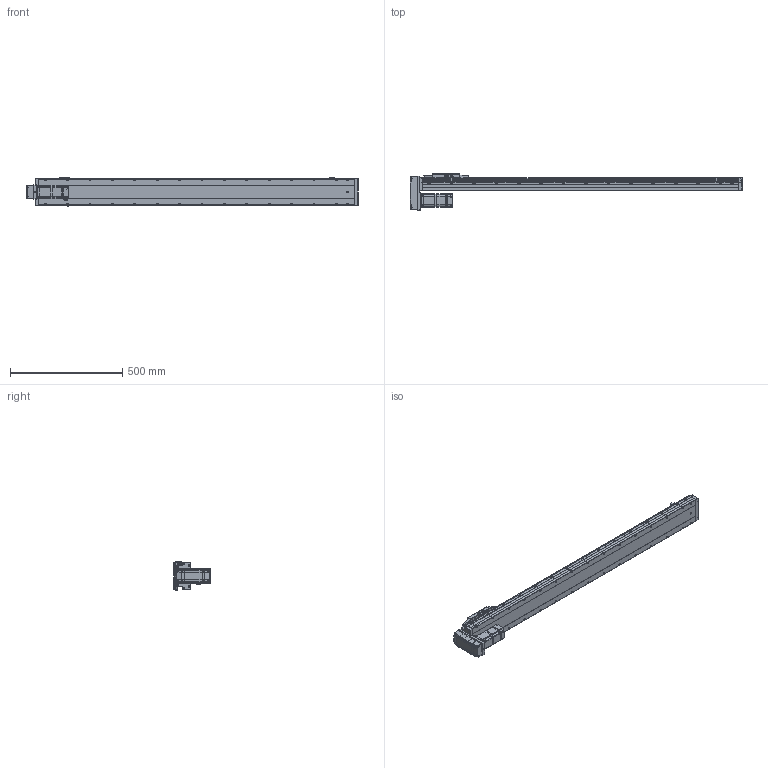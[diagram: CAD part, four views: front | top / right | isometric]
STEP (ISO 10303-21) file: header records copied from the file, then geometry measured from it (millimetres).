
FILE_DESCRIPTION (( 'STEP AP214' ), '1' );
FILE_NAME ('CTH12-L10-S1200-BM-C40（简）.STEP', '2023-02-04T06:39:49', ( '' ), ( '' ), 'SwSTEP 2.0', 'SolidWorks 2018', '' );
FILE_SCHEMA (( 'AUTOMOTIVE_DESIGN' ));
Length unit declared in the file: millimetre
Products named in the file (25): CTH12; 嫖萇羲壽郪磁1; hex nuts, style 1-grades ab gb_GB_FASTENER_NUT_SNAB1 M3-N; 内六角圆柱头螺钉M3-1; CTH12賑怢郪磁; BM-C40; 内六角圆柱头螺钉M3; CTH400W假蚾啣; PM-Y45; AC60_Valor predeterminado; CTH嫖萇羲壽假蚾啣; 湮賑怢  裔赽-1(CTH12)賑怢; 内六角圆柱头螺钉M5装饰螺钉; CTH12-L10-S1200-BM-C40（简）; CTH12_body_3; CTH12賑怢ㄗ潠ㄘ; CTH400W垫板（3个厚）; 蚐郲; 嫖萇羲壽郪磁2; CTH8耜蚾蟀諉啣ㄗ潠ㄘ; 内六角圆柱头螺钉M3-2; CTH12底座-L1411简（1200行程）; CTH12-BM-02; CTH12覜茼え; CTH12-BL_body_4
Assembly tree (45 placements, depth 4):
  CTH12-L10-S1200-BM-C40（简）
    CTH12底座-L1411简（1200行程）
    蚐郲  x2
    CTH12_body_3
    CTH12-BL_body_4
    CTH12賑怢郪磁
      CTH12
        湮賑怢  裔赽-1(CTH12)賑怢
        CTH12賑怢ㄗ潠ㄘ
    CTH12覜茼え
    嫖萇羲壽郪磁1  x2
      CTH嫖萇羲壽假蚾啣
      PM-Y45
      内六角圆柱头螺钉M3-2
      内六角圆柱头螺钉M3-1
      hex nuts, style 1-grades ab gb_GB_FASTENER_NUT_SNAB1 M3-N
    嫖萇羲壽郪磁2
      CTH嫖萇羲壽假蚾啣
      PM-Y45
      内六角圆柱头螺钉M3-1  x2
      内六角圆柱头螺钉M3-2  x2
      hex nuts, style 1-grades ab gb_GB_FASTENER_NUT_SNAB1 M3-N  x2
    BM-C40
      CTH12-BM-02
      CTH8耜蚾蟀諉啣ㄗ潠ㄘ
    CTH400W垫板（3个厚）
    AC60_Valor predeterminado
    内六角圆柱头螺钉M3  x6
    内六角圆柱头螺钉M5装饰螺钉  x4
    CTH400W假蚾啣
Bounding box: 1481.5 x 162.5 x 131.52 mm (x, y, z)
Volume: 9838702.8 mm3; surface area: 842965.9 mm2
Topology: 47 solids, 48 shells, 3030 faces, 7690 edges, 4879 vertices
Faces by surface type: plane 1598, cylinder 883, cone 375, bspline 122, torus 52
Entity records: 85425 total; most frequent: CARTESIAN_POINT 20909, ORIENTED_EDGE 12560, DIRECTION 12481, EDGE_CURVE 6280, AXIS2_PLACEMENT_3D 4267, VERTEX_POINT 3983, LINE 3947, VECTOR 3947
